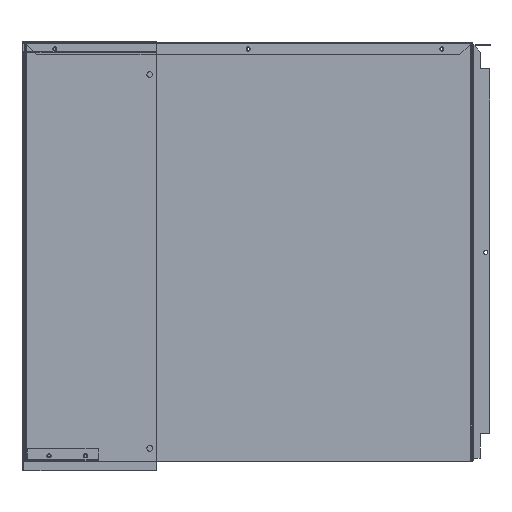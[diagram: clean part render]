
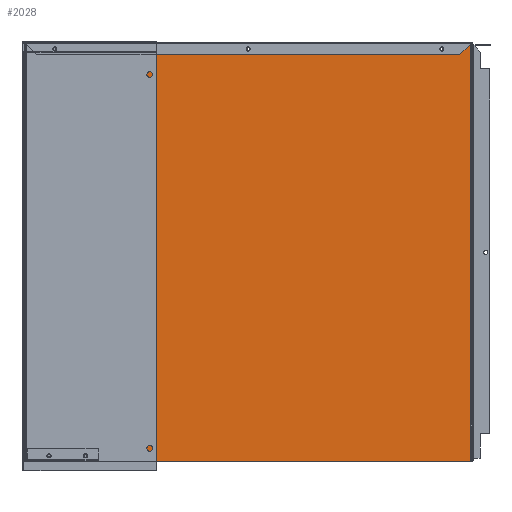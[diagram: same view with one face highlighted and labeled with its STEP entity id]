
A CAD part, left-side view. The second image highlights one B-rep face of the part: STEP entity #2028.
In plain terms, the highlighted planar face has unit normal (0, 0, 1) by its records, which use the part's own axes.
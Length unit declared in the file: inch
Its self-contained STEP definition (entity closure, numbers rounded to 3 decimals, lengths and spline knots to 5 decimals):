
#97 = CARTESIAN_POINT ( 'NONE',  ( 17.14294, -19.30396, -0.038 ) ) ;
#201 = VERTEX_POINT ( 'NONE', #3242 ) ;
#227 = FACE_BOUND ( 'NONE', #8387, .T. ) ;
#228 = ORIENTED_EDGE ( 'NONE', *, *, #4255, .F. ) ;
#320 = DIRECTION ( 'NONE',  ( 1., 0., 0. ) ) ;
#331 = DIRECTION ( 'NONE',  ( 0., 0., 1. ) ) ;
#341 = CARTESIAN_POINT ( 'NONE',  ( 8.45544, -19.30396, -0.038 ) ) ;
#345 = CIRCLE ( 'NONE', #4130, 0.09375 ) ;
#430 = VECTOR ( 'NONE', #7786, 39.37008 ) ;
#525 = AXIS2_PLACEMENT_3D ( 'NONE', #2777, #2768, #2750 ) ;
#774 = CIRCLE ( 'NONE', #1521, 0.09375 ) ;
#806 = VERTEX_POINT ( 'NONE', #4501 ) ;
#890 = VERTEX_POINT ( 'NONE', #4698 ) ;
#904 = DIRECTION ( 'NONE',  ( -1., 0., 0. ) ) ;
#906 = DIRECTION ( 'NONE',  ( 0., 0., -1. ) ) ;
#923 = AXIS2_PLACEMENT_3D ( 'NONE', #5473, #5445, #5436 ) ;
#978 = CARTESIAN_POINT ( 'NONE',  ( 0., 0., -0.038 ) ) ;
#998 = PLANE ( 'NONE',  #1031 ) ;
#1031 = AXIS2_PLACEMENT_3D ( 'NONE', #978, #906, #904 ) ;
#1136 = VECTOR ( 'NONE', #2384, 39.37008 ) ;
#1279 = VERTEX_POINT ( 'NONE', #2782 ) ;
#1284 = FACE_BOUND ( 'NONE', #6543, .T. ) ;
#1391 = ORIENTED_EDGE ( 'NONE', *, *, #5347, .F. ) ;
#1434 = VERTEX_POINT ( 'NONE', #1467 ) ;
#1467 = CARTESIAN_POINT ( 'NONE',  ( 26.96004, -19.04896, -0.038 ) ) ;
#1505 = DIRECTION ( 'NONE',  ( 1., 0., 0. ) ) ;
#1514 = DIRECTION ( 'NONE',  ( 0., 0., 1. ) ) ;
#1517 = CARTESIAN_POINT ( 'NONE',  ( 24.33089, -37.42469, -0.038 ) ) ;
#1521 = AXIS2_PLACEMENT_3D ( 'NONE', #8527, #8517, #8499 ) ;
#1548 = CARTESIAN_POINT ( 'NONE',  ( 25.76794, -19.30396, -0.038 ) ) ;
#1635 = FACE_OUTER_BOUND ( 'NONE', #7965, .T. ) ;
#1891 = VERTEX_POINT ( 'NONE', #2347 ) ;
#1992 = EDGE_CURVE ( 'NONE', #2867, #7280, #345, .T. ) ;
#2000 = VERTEX_POINT ( 'NONE', #1548 ) ;
#2028 = ADVANCED_FACE ( 'NONE', ( #1635, #227, #5168, #4858, #5071, #1284 ), #998, .F. ) ;
#2167 = VERTEX_POINT ( 'NONE', #97 ) ;
#2197 = AXIS2_PLACEMENT_3D ( 'NONE', #341, #331, #320 ) ;
#2333 = VECTOR ( 'NONE', #7343, 39.37008 ) ;
#2347 = CARTESIAN_POINT ( 'NONE',  ( 26.04964, -37.42469, -0.038 ) ) ;
#2384 = DIRECTION ( 'NONE',  ( 0., 1., 0. ) ) ;
#2622 = VERTEX_POINT ( 'NONE', #8211 ) ;
#2686 = EDGE_CURVE ( 'NONE', #4585, #2000, #8334, .T. ) ;
#2705 = ORIENTED_EDGE ( 'NONE', *, *, #2686, .F. ) ;
#2750 = DIRECTION ( 'NONE',  ( 1., 0., 0. ) ) ;
#2768 = DIRECTION ( 'NONE',  ( 0., 0., 1. ) ) ;
#2777 = CARTESIAN_POINT ( 'NONE',  ( 25.95589, -37.42469, -0.038 ) ) ;
#2782 = CARTESIAN_POINT ( 'NONE',  ( 25.86214, -37.42469, -0.038 ) ) ;
#2849 = EDGE_CURVE ( 'NONE', #2622, #2167, #7845, .T. ) ;
#2867 = VERTEX_POINT ( 'NONE', #6433 ) ;
#3093 = CARTESIAN_POINT ( 'NONE',  ( 24.23714, -37.42469, -0.038 ) ) ;
#3242 = CARTESIAN_POINT ( 'NONE',  ( 8.51794, -19.30396, -0.038 ) ) ;
#3446 = CARTESIAN_POINT ( 'NONE',  ( 7.15709, -19.04896, -0.038 ) ) ;
#3692 = ORIENTED_EDGE ( 'NONE', *, *, #2849, .F. ) ;
#4037 = CARTESIAN_POINT ( 'NONE',  ( 8.39294, -19.30396, -0.038 ) ) ;
#4063 = CIRCLE ( 'NONE', #6780, 0.0625 ) ;
#4112 = EDGE_CURVE ( 'NONE', #2167, #2622, #4063, .T. ) ;
#4130 = AXIS2_PLACEMENT_3D ( 'NONE', #1517, #1514, #1505 ) ;
#4186 = AXIS2_PLACEMENT_3D ( 'NONE', #7284, #7269, #7261 ) ;
#4255 = EDGE_CURVE ( 'NONE', #201, #8655, #4785, .T. ) ;
#4384 = ORIENTED_EDGE ( 'NONE', *, *, #4112, .F. ) ;
#4421 = DIRECTION ( 'NONE',  ( 1., 0., 0. ) ) ;
#4428 = DIRECTION ( 'NONE',  ( 0., 0., 1. ) ) ;
#4437 = CARTESIAN_POINT ( 'NONE',  ( 24.33089, -37.42469, -0.038 ) ) ;
#4438 = CIRCLE ( 'NONE', #525, 0.09375 ) ;
#4443 = ORIENTED_EDGE ( 'NONE', *, *, #1992, .F. ) ;
#4501 = CARTESIAN_POINT ( 'NONE',  ( 7.15709, -37.67469, -0.038 ) ) ;
#4504 = CARTESIAN_POINT ( 'NONE',  ( 25.64294, -19.30396, -0.038 ) ) ;
#4584 = EDGE_CURVE ( 'NONE', #7280, #2867, #4975, .T. ) ;
#4585 = VERTEX_POINT ( 'NONE', #4504 ) ;
#4652 = ORIENTED_EDGE ( 'NONE', *, *, #8513, .F. ) ;
#4698 = CARTESIAN_POINT ( 'NONE',  ( 26.96004, -37.67469, -0.038 ) ) ;
#4737 = ORIENTED_EDGE ( 'NONE', *, *, #6464, .T. ) ;
#4785 = CIRCLE ( 'NONE', #6977, 0.0625 ) ;
#4858 = FACE_BOUND ( 'NONE', #8661, .T. ) ;
#4975 = CIRCLE ( 'NONE', #8232, 0.09375 ) ;
#5071 = FACE_BOUND ( 'NONE', #8383, .T. ) ;
#5168 = FACE_BOUND ( 'NONE', #8316, .T. ) ;
#5289 = CIRCLE ( 'NONE', #2197, 0.0625 ) ;
#5347 = EDGE_CURVE ( 'NONE', #8655, #201, #5289, .T. ) ;
#5436 = DIRECTION ( 'NONE',  ( 1., 0., 0. ) ) ;
#5445 = DIRECTION ( 'NONE',  ( 0., 0., 1. ) ) ;
#5473 = CARTESIAN_POINT ( 'NONE',  ( 25.70544, -19.30396, -0.038 ) ) ;
#5706 = DIRECTION ( 'NONE',  ( 1., 0., 0. ) ) ;
#5715 = DIRECTION ( 'NONE',  ( 0., 0., 1. ) ) ;
#5725 = CARTESIAN_POINT ( 'NONE',  ( 8.45544, -19.30396, -0.038 ) ) ;
#5753 = DIRECTION ( 'NONE',  ( 0., -1., 0. ) ) ;
#5834 = EDGE_CURVE ( 'NONE', #806, #7210, #7484, .T. ) ;
#5846 = ORIENTED_EDGE ( 'NONE', *, *, #6526, .T. ) ;
#5889 = CARTESIAN_POINT ( 'NONE',  ( 26.96004, 0., -0.038 ) ) ;
#6040 = ORIENTED_EDGE ( 'NONE', *, *, #7356, .F. ) ;
#6092 = ORIENTED_EDGE ( 'NONE', *, *, #5834, .F. ) ;
#6226 = EDGE_CURVE ( 'NONE', #1279, #1891, #774, .T. ) ;
#6413 = DIRECTION ( 'NONE',  ( 1., 0., 0. ) ) ;
#6420 = DIRECTION ( 'NONE',  ( 0., 0., 1. ) ) ;
#6421 = CARTESIAN_POINT ( 'NONE',  ( 17.08044, -19.30396, -0.038 ) ) ;
#6423 = ORIENTED_EDGE ( 'NONE', *, *, #6226, .F. ) ;
#6433 = CARTESIAN_POINT ( 'NONE',  ( 24.42464, -37.42469, -0.038 ) ) ;
#6464 = EDGE_CURVE ( 'NONE', #1434, #7210, #8021, .T. ) ;
#6501 = DIRECTION ( 'NONE',  ( 1., 0., 0. ) ) ;
#6504 = DIRECTION ( 'NONE',  ( 0., 0., 1. ) ) ;
#6512 = CARTESIAN_POINT ( 'NONE',  ( 17.08044, -19.30396, -0.038 ) ) ;
#6526 = EDGE_CURVE ( 'NONE', #806, #890, #6995, .T. ) ;
#6543 = EDGE_LOOP ( 'NONE', ( #6919, #2705 ) ) ;
#6650 = LINE ( 'NONE', #5889, #8331 ) ;
#6780 = AXIS2_PLACEMENT_3D ( 'NONE', #6421, #6420, #6413 ) ;
#6830 = EDGE_CURVE ( 'NONE', #2000, #4585, #7822, .T. ) ;
#6919 = ORIENTED_EDGE ( 'NONE', *, *, #6830, .F. ) ;
#6977 = AXIS2_PLACEMENT_3D ( 'NONE', #5725, #5715, #5706 ) ;
#6995 = LINE ( 'NONE', #7386, #2333 ) ;
#7210 = VERTEX_POINT ( 'NONE', #3446 ) ;
#7261 = DIRECTION ( 'NONE',  ( 1., 0., 0. ) ) ;
#7269 = DIRECTION ( 'NONE',  ( 0., 0., 1. ) ) ;
#7280 = VERTEX_POINT ( 'NONE', #3093 ) ;
#7284 = CARTESIAN_POINT ( 'NONE',  ( 25.70544, -19.30396, -0.038 ) ) ;
#7343 = DIRECTION ( 'NONE',  ( 1., 0., 0. ) ) ;
#7356 = EDGE_CURVE ( 'NONE', #1891, #1279, #4438, .T. ) ;
#7386 = CARTESIAN_POINT ( 'NONE',  ( 27.04492, -37.67469, -0.038 ) ) ;
#7484 = LINE ( 'NONE', #7804, #1136 ) ;
#7720 = CARTESIAN_POINT ( 'NONE',  ( 7.13659, -19.04896, -0.038 ) ) ;
#7786 = DIRECTION ( 'NONE',  ( -1., 0., 0. ) ) ;
#7804 = CARTESIAN_POINT ( 'NONE',  ( 7.15709, 0., -0.038 ) ) ;
#7822 = CIRCLE ( 'NONE', #923, 0.0625 ) ;
#7845 = CIRCLE ( 'NONE', #8132, 0.0625 ) ;
#7965 = EDGE_LOOP ( 'NONE', ( #5846, #4652, #4737, #6092 ) ) ;
#7996 = ORIENTED_EDGE ( 'NONE', *, *, #4584, .F. ) ;
#8021 = LINE ( 'NONE', #7720, #430 ) ;
#8132 = AXIS2_PLACEMENT_3D ( 'NONE', #6512, #6504, #6501 ) ;
#8211 = CARTESIAN_POINT ( 'NONE',  ( 17.01794, -19.30396, -0.038 ) ) ;
#8232 = AXIS2_PLACEMENT_3D ( 'NONE', #4437, #4428, #4421 ) ;
#8316 = EDGE_LOOP ( 'NONE', ( #4443, #7996 ) ) ;
#8331 = VECTOR ( 'NONE', #5753, 39.37008 ) ;
#8334 = CIRCLE ( 'NONE', #4186, 0.0625 ) ;
#8383 = EDGE_LOOP ( 'NONE', ( #228, #1391 ) ) ;
#8387 = EDGE_LOOP ( 'NONE', ( #6040, #6423 ) ) ;
#8499 = DIRECTION ( 'NONE',  ( 1., 0., 0. ) ) ;
#8513 = EDGE_CURVE ( 'NONE', #1434, #890, #6650, .T. ) ;
#8517 = DIRECTION ( 'NONE',  ( 0., 0., 1. ) ) ;
#8527 = CARTESIAN_POINT ( 'NONE',  ( 25.95589, -37.42469, -0.038 ) ) ;
#8655 = VERTEX_POINT ( 'NONE', #4037 ) ;
#8661 = EDGE_LOOP ( 'NONE', ( #4384, #3692 ) ) ;
